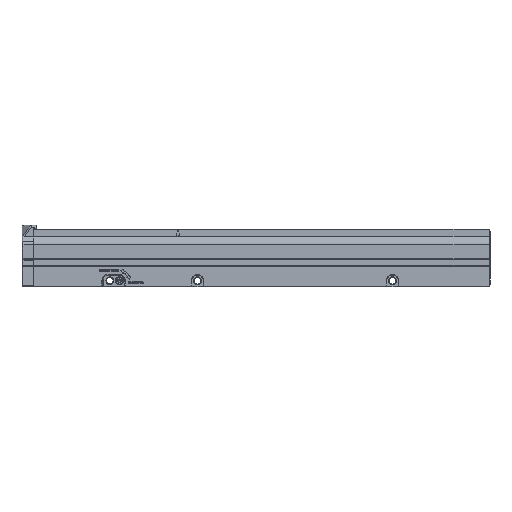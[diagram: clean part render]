
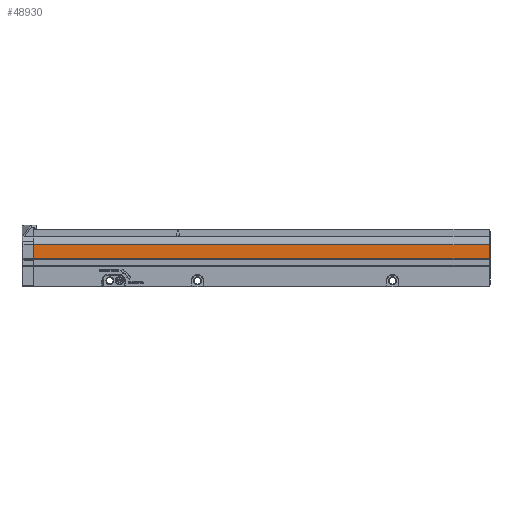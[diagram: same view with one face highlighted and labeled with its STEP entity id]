
A CAD part, front view. The second image highlights one B-rep face of the part: STEP entity #48930.
In plain terms, the highlighted planar face has unit normal (0, -1, 0) as drawn and (0, 1, 0) by its records, which use the part's own axes.
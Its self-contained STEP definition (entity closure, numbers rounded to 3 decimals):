
#48540=CARTESIAN_POINT('',(346.073,30.888,
15.902));
#48550=DIRECTION('',(0.,-1.,0.));
#48560=DIRECTION('',(0.,0.,-1.));
#48570=AXIS2_PLACEMENT_3D('',#48540,#48550,#48560);
#48580=PLANE('',#48570);
#48590=CARTESIAN_POINT('',(346.073,30.888,
29.931));
#48600=DIRECTION('',(1.,0.,0.));
#48610=VECTOR('',#48600,1.);
#48620=LINE('',#48590,#48610);
#48630=CARTESIAN_POINT('',(-254.927,30.888,
29.931));
#48640=VERTEX_POINT('',#48630);
#48650=CARTESIAN_POINT('',(212.073,30.888,
29.931));
#48660=VERTEX_POINT('',#48650);
#48670=EDGE_CURVE('',#48640,#48660,#48620,.T.);
#48680=ORIENTED_EDGE('',*,*,#48670,.T.);
#48690=CARTESIAN_POINT('',(-254.927,30.888,
41.986));
#48700=DIRECTION('',(0.,0.,1.));
#48710=VECTOR('',#48700,1.);
#48720=LINE('',#48690,#48710);
#48730=CARTESIAN_POINT('',(-254.927,30.888,
15.742));
#48740=VERTEX_POINT('',#48730);
#48750=EDGE_CURVE('',#48740,#48640,#48720,.T.);
#48760=ORIENTED_EDGE('',*,*,#48750,.T.);
#48770=CARTESIAN_POINT('',(346.073,30.888,
15.742));
#48780=DIRECTION('',(1.,0.,0.));
#48790=VECTOR('',#48780,1.);
#48800=LINE('',#48770,#48790);
#48810=CARTESIAN_POINT('',(212.073,30.888,
15.742));
#48820=VERTEX_POINT('',#48810);
#48830=EDGE_CURVE('',#48740,#48820,#48800,.T.);
#48840=ORIENTED_EDGE('',*,*,#48830,.F.);
#48850=CARTESIAN_POINT('',(212.073,30.888,
-4.473));
#48860=DIRECTION('',(0.,0.,1.));
#48870=VECTOR('',#48860,1.);
#48880=LINE('',#48850,#48870);
#48890=EDGE_CURVE('',#48820,#48660,#48880,.T.);
#48900=ORIENTED_EDGE('',*,*,#48890,.F.);
#48910=EDGE_LOOP('',(#48900,#48840,#48760,#48680));
#48920=FACE_OUTER_BOUND('',#48910,.T.);
#48930=ADVANCED_FACE('',(#48920),#48580,.F.);
